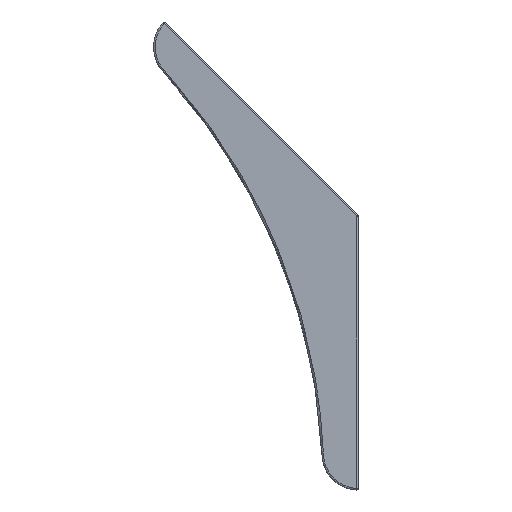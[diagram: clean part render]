
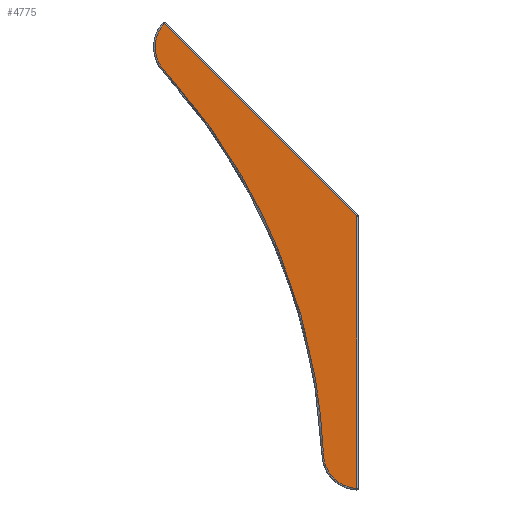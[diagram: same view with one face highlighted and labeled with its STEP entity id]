
A CAD part, top view. The second image highlights one B-rep face of the part: STEP entity #4775.
In plain terms, the highlighted planar face has unit normal (0.008, 0.003, 1).
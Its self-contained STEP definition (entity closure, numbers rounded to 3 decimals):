
#24 = CARTESIAN_POINT ( 'NONE',  ( 30.587, 12.67, 9.65 ) ) ;
#88 = EDGE_CURVE ( 'NONE', #2196, #1982, #4747, .T. ) ;
#287 = CARTESIAN_POINT ( 'NONE',  ( -63.991, 134.263, 10.006 ) ) ;
#333 = EDGE_CURVE ( 'NONE', #1982, #2405, #2887, .T. ) ;
#375 = CARTESIAN_POINT ( 'NONE',  ( -26.558, 75.513, 9.901 ) ) ;
#433 = EDGE_CURVE ( 'NONE', #1662, #5638, #3623, .T. ) ;
#474 = CARTESIAN_POINT ( 'NONE',  ( 51.865, 33.948, 9.407 ) ) ;
#548 = DIRECTION ( 'NONE',  ( 0.008, 0.003, 1. ) ) ;
#555 = CARTESIAN_POINT ( 'NONE',  ( -0.534, 86.293, 9.655 ) ) ;
#893 = VERTEX_POINT ( 'NONE', #2268 ) ;
#979 = DIRECTION ( 'NONE',  ( -0.707, 0.707, 0.003 ) ) ;
#990 = PLANE ( 'NONE',  #2879 ) ;
#1185 = CARTESIAN_POINT ( 'NONE',  ( -63.991, 134.263, 10.006 ) ) ;
#1382 = ORIENTED_EDGE ( 'NONE', *, *, #333, .T. ) ;
#1656 = VECTOR ( 'NONE', #979, 1000. ) ;
#1662 = VERTEX_POINT ( 'NONE', #4429 ) ;
#1695 = CARTESIAN_POINT ( 'NONE',  ( -35.535, 97.186, 9.901 ) ) ;
#1770 = CARTESIAN_POINT ( 'NONE',  ( -68.235, 138.893, 10.025 ) ) ;
#1982 = VERTEX_POINT ( 'NONE', #4769 ) ;
#2160 = CARTESIAN_POINT ( 'NONE',  ( -68.235, 145.174, 10.004 ) ) ;
#2196 = VERTEX_POINT ( 'NONE', #4420 ) ;
#2268 = CARTESIAN_POINT ( 'NONE',  ( -26.558, 75.513, 9.901 ) ) ;
#2308 = VERTEX_POINT ( 'NONE', #1185 ) ;
#2405 = VERTEX_POINT ( 'NONE', #6182 ) ;
#2417 = CARTESIAN_POINT ( 'NONE',  ( -0.496, -3.487, 9.955 ) ) ;
#2537 =( BOUNDED_CURVE ( )  B_SPLINE_CURVE ( 3, ( #4480, #6290, #6321, #555 ),
 .UNSPECIFIED., .F., .F. ) 
 B_SPLINE_CURVE_WITH_KNOTS ( ( 4, 4 ),
 ( 5.89, 6.283 ),
 .UNSPECIFIED. ) 
 CURVE ( )  GEOMETRIC_REPRESENTATION_ITEM ( )  RATIONAL_B_SPLINE_CURVE ( ( 1., 0.987, 0.987, 1. ) ) 
 REPRESENTATION_ITEM ( '' )  );
#2598 = CARTESIAN_POINT ( 'NONE',  ( -0.534, 86.293, 9.655 ) ) ;
#2708 = ORIENTED_EDGE ( 'NONE', *, *, #3794, .T. ) ;
#2879 = AXIS2_PLACEMENT_3D ( 'NONE', #24, #548, #2919 ) ;
#2887 = LINE ( 'NONE', #3771, #3328 ) ;
#2919 = DIRECTION ( 'NONE',  ( 1., 0., -0.008 ) ) ;
#3046 = ORIENTED_EDGE ( 'NONE', *, *, #433, .T. ) ;
#3137 = VERTEX_POINT ( 'NONE', #4374 ) ;
#3161 = CARTESIAN_POINT ( 'NONE',  ( -26.558, 75.513, 9.901 ) ) ;
#3219 = CARTESIAN_POINT ( 'NONE',  ( -12.505, 30.938, 9.936 ) ) ;
#3328 = VECTOR ( 'NONE', #5682, 1000. ) ;
#3379 =( BOUNDED_CURVE ( )  B_SPLINE_CURVE ( 3, ( #6061, #4064, #1695, #3161 ),
 .UNSPECIFIED., .F., .F. ) 
 B_SPLINE_CURVE_WITH_KNOTS ( ( 4, 4 ),
 ( 5.934, 6.283 ),
 .UNSPECIFIED. ) 
 CURVE ( )  GEOMETRIC_REPRESENTATION_ITEM ( )  RATIONAL_B_SPLINE_CURVE ( ( 1., 0.99, 0.99, 1. ) ) 
 REPRESENTATION_ITEM ( '' )  );
#3494 = ORIENTED_EDGE ( 'NONE', *, *, #4271, .T. ) ;
#3606 = EDGE_CURVE ( 'NONE', #5638, #3137, #4847, .T. ) ;
#3623 =( BOUNDED_CURVE ( )  B_SPLINE_CURVE ( 3, ( #2598, #5940, #5845, #4546 ),
 .UNSPECIFIED., .F., .F. ) 
 B_SPLINE_CURVE_WITH_KNOTS ( ( 4, 4 ),
 ( 0., 0.393 ),
 .UNSPECIFIED. ) 
 CURVE ( )  GEOMETRIC_REPRESENTATION_ITEM ( )  RATIONAL_B_SPLINE_CURVE ( ( 1., 0.987, 0.987, 1. ) ) 
 REPRESENTATION_ITEM ( '' )  );
#3771 = CARTESIAN_POINT ( 'NONE',  ( -0.496, 12.671, 9.901 ) ) ;
#3794 = EDGE_CURVE ( 'NONE', #2405, #1662, #2537, .T. ) ;
#3870 =( BOUNDED_CURVE ( )  B_SPLINE_CURVE ( 3, ( #4667, #2160, #1770, #287 ),
 .UNSPECIFIED., .F., .F. ) 
 B_SPLINE_CURVE_WITH_KNOTS ( ( 4, 4 ),
 ( 2.007, 3.491 ),
 .UNSPECIFIED. ) 
 CURVE ( )  GEOMETRIC_REPRESENTATION_ITEM ( )  RATIONAL_B_SPLINE_CURVE ( ( 1., 0.825, 0.825, 1. ) ) 
 REPRESENTATION_ITEM ( '' )  );
#4064 = CARTESIAN_POINT ( 'NONE',  ( -48.14, 116.97, 9.936 ) ) ;
#4209 = ORIENTED_EDGE ( 'NONE', *, *, #3606, .T. ) ;
#4244 = CARTESIAN_POINT ( 'NONE',  ( -11.485, 7.502, 10.006 ) ) ;
#4270 = CARTESIAN_POINT ( 'NONE',  ( -17.581, 53.841, 9.901 ) ) ;
#4271 = EDGE_CURVE ( 'NONE', #2308, #893, #3379, .T. ) ;
#4281 = CARTESIAN_POINT ( 'NONE',  ( -0.642, 86.455, 9.655 ) ) ;
#4320 = EDGE_CURVE ( 'NONE', #893, #2196, #5823, .T. ) ;
#4374 = CARTESIAN_POINT ( 'NONE',  ( -63.991, 149.804, 9.955 ) ) ;
#4396 = ORIENTED_EDGE ( 'NONE', *, *, #4320, .T. ) ;
#4416 = FACE_OUTER_BOUND ( 'NONE', #5074, .T. ) ;
#4420 = CARTESIAN_POINT ( 'NONE',  ( -11.485, 7.502, 10.006 ) ) ;
#4429 = CARTESIAN_POINT ( 'NONE',  ( -0.534, 86.293, 9.655 ) ) ;
#4480 = CARTESIAN_POINT ( 'NONE',  ( -0.496, 86.101, 9.655 ) ) ;
#4546 = CARTESIAN_POINT ( 'NONE',  ( -0.642, 86.455, 9.655 ) ) ;
#4667 = CARTESIAN_POINT ( 'NONE',  ( -63.991, 149.804, 9.955 ) ) ;
#4747 =( BOUNDED_CURVE ( )  B_SPLINE_CURVE ( 3, ( #6227, #5779, #5299, #2417 ),
 .UNSPECIFIED., .F., .F. ) 
 B_SPLINE_CURVE_WITH_KNOTS ( ( 4, 4 ),
 ( 2.792, 4.276 ),
 .UNSPECIFIED. ) 
 CURVE ( )  GEOMETRIC_REPRESENTATION_ITEM ( )  RATIONAL_B_SPLINE_CURVE ( ( 1., 0.825, 0.825, 1. ) ) 
 REPRESENTATION_ITEM ( '' )  );
#4769 = CARTESIAN_POINT ( 'NONE',  ( -0.496, -3.487, 9.955 ) ) ;
#4775 = ADVANCED_FACE ( 'NONE', ( #4416 ), #990, .T. ) ;
#4847 = LINE ( 'NONE', #474, #1656 ) ;
#4914 = ORIENTED_EDGE ( 'NONE', *, *, #6111, .T. ) ;
#5074 = EDGE_LOOP ( 'NONE', ( #3494, #4396, #6004, #1382, #2708, #3046, #4209, #4914 ) ) ;
#5299 = CARTESIAN_POINT ( 'NONE',  ( -6.771, -3.214, 10.004 ) ) ;
#5638 = VERTEX_POINT ( 'NONE', #4281 ) ;
#5682 = DIRECTION ( 'NONE',  ( 0., 1., -0.003 ) ) ;
#5779 = CARTESIAN_POINT ( 'NONE',  ( -11.212, 1.227, 10.025 ) ) ;
#5823 =( BOUNDED_CURVE ( )  B_SPLINE_CURVE ( 3, ( #375, #4270, #3219, #4244 ),
 .UNSPECIFIED., .F., .F. ) 
 B_SPLINE_CURVE_WITH_KNOTS ( ( 4, 4 ),
 ( 0., 0.349 ),
 .UNSPECIFIED. ) 
 CURVE ( )  GEOMETRIC_REPRESENTATION_ITEM ( )  RATIONAL_B_SPLINE_CURVE ( ( 1., 0.99, 0.99, 1. ) ) 
 REPRESENTATION_ITEM ( '' )  );
#5845 = CARTESIAN_POINT ( 'NONE',  ( -0.596, 86.408, 9.655 ) ) ;
#5940 = CARTESIAN_POINT ( 'NONE',  ( -0.559, 86.354, 9.655 ) ) ;
#6004 = ORIENTED_EDGE ( 'NONE', *, *, #88, .T. ) ;
#6061 = CARTESIAN_POINT ( 'NONE',  ( -63.991, 134.263, 10.006 ) ) ;
#6111 = EDGE_CURVE ( 'NONE', #3137, #2308, #3870, .T. ) ;
#6182 = CARTESIAN_POINT ( 'NONE',  ( -0.496, 86.101, 9.655 ) ) ;
#6227 = CARTESIAN_POINT ( 'NONE',  ( -11.485, 7.502, 10.006 ) ) ;
#6290 = CARTESIAN_POINT ( 'NONE',  ( -0.496, 86.167, 9.655 ) ) ;
#6321 = CARTESIAN_POINT ( 'NONE',  ( -0.509, 86.232, 9.655 ) ) ;
